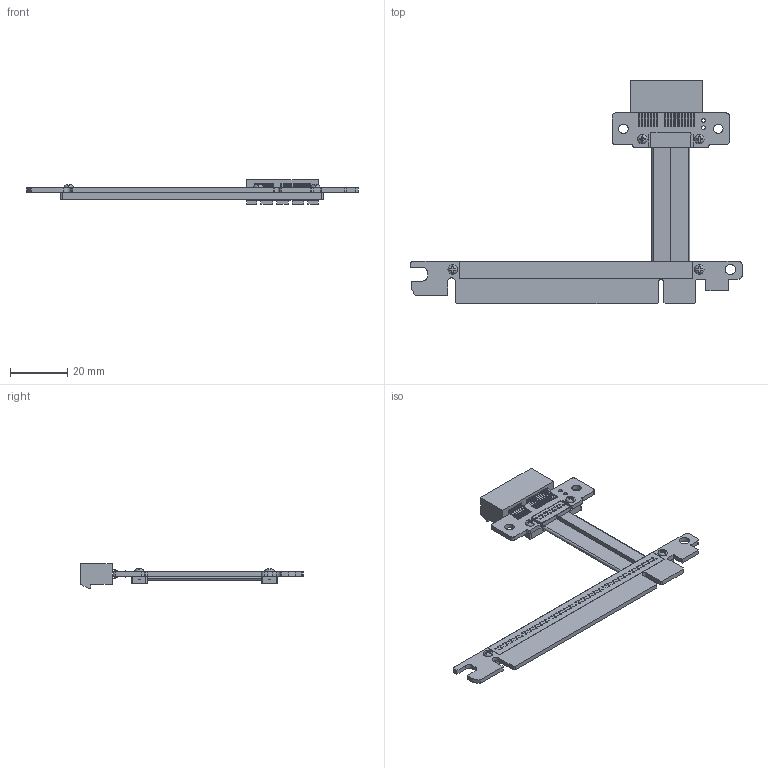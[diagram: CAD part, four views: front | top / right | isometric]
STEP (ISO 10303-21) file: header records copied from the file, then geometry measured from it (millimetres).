
FILE_DESCRIPTION(('Open CASCADE Model'),'2;1');
FILE_NAME('Open CASCADE Shape Model','2020-03-17T21:32:01',('Author'),( 'Open CASCADE'),'Open CASCADE STEP processor 6.8','Open CASCADE 6.8' ,'Unknown');
FILE_SCHEMA(('AUTOMOTIVE_DESIGN { 1 0 10303 214 1 1 1 1 }'));
Length unit declared in the file: millimetre
Products named in the file (14): PCB; Board; Open CASCADE STEP translator 6.8 2.1.1; Free-Models; RP33S-PAD; Hexagon_nut_ISO_4032_(DIN_934)_-_M2_RGB9411503; G0033_RGB9411503; tape-3P_RGB0; Tape14x5_RGB0; RP11S-PAD; PCIe_x1_標啣敕諳_PCIE-036-02-S-D-EMS2_RGB4404530; _PCIE-036-02-S-D-EMS2_body; _PCIE-036-02-S-D-EMS2_pins1; cable20-43
Assembly tree (19 placements, depth 4):
  PCB
    Board
      Open CASCADE STEP translator 6.8 2.1.1
    Free-Models
      RP33S-PAD
      Hexagon_nut_ISO_4032_(DIN_934)_-_M2_RGB9411503  x4
      G0033_RGB9411503  x4
      tape-3P_RGB0
      Tape14x5_RGB0
      RP11S-PAD
      PCIe_x1_標啣敕諳_PCIE-036-02-S-D-EMS2_RGB4404530
        _PCIE-036-02-S-D-EMS2_body
        _PCIE-036-02-S-D-EMS2_pins1
      cable20-43
Bounding box: 116.43 x 78.2 x 8.7 mm (x, y, z)
Volume: 6098.2 mm3; surface area: 15193.5 mm2
Topology: 56 solids, 56 shells, 2446 faces, 7011 edges, 4616 vertices
Faces by surface type: plane 1456, cylinder 854, torus 80, cone 48, revolution 8
Full cylindrical faces by diameter (mm): 0.6 x133, 1.3 x2, 2.2 x8, 3.3 x2, 3.6 x1, 4.8 x4
Entity records: 92435 total; most frequent: CARTESIAN_POINT 13600, ORIENTED_EDGE 13374, DIRECTION 13127, EDGE_CURVE 6687, LINE 4815, VECTOR 4815, VERTEX_POINT 4412, AXIS2_PLACEMENT_3D 4155
